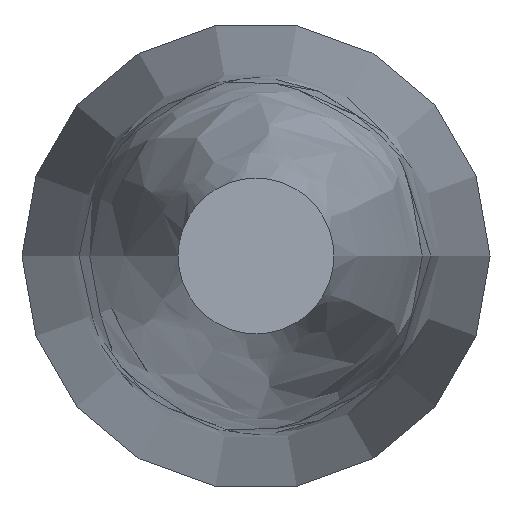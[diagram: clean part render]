
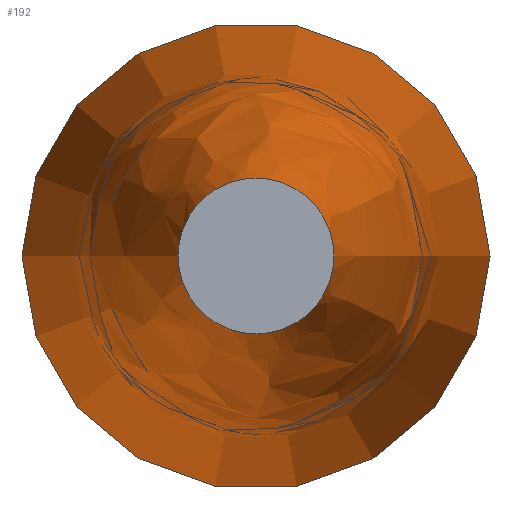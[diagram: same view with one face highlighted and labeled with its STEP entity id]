
A CAD part, left-side view. The second image highlights one B-rep face of the part: STEP entity #192.
In plain terms, the highlighted face is a revolution surface.
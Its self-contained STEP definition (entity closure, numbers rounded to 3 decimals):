
#130=CARTESIAN_POINT('',(225.0,22.9,0.0));
#131=VERTEX_POINT('',#130);
#137=CARTESIAN_POINT('',(225.0,0.0,0.0));
#138=DIRECTION('',(-1.0,0.0,0.0));
#139=DIRECTION('',(0.0,1.0,0.0));
#140=AXIS2_PLACEMENT_3D('',#137,#138,#139);
#141=CIRCLE('',#140,22.9);
#142=EDGE_CURVE('',#131,#131,#141,.T.);
#149=CARTESIAN_POINT('',(30.,8.3,0.0));
#150=CARTESIAN_POINT('',(36.19,9.998,0.0));
#151=CARTESIAN_POINT('',(66.178,15.838,0.0));
#152=CARTESIAN_POINT('',(82.836,17.727,0.0));
#153=CARTESIAN_POINT('',(100.774,19.082,0.0));
#154=CARTESIAN_POINT('',(128.175,18.454,0.0));
#155=CARTESIAN_POINT('',(147.157,21.321,0.0));
#156=CARTESIAN_POINT('',(183.307,23.523,0.0));
#157=CARTESIAN_POINT('',(193.221,25.704,0.0));
#158=CARTESIAN_POINT('',(207.403,25.195,0.0));
#159=CARTESIAN_POINT('',(225.0,22.9,0.0));
#160=B_SPLINE_CURVE_WITH_KNOTS('',4,(#149,#150,#151,#152,#153,#154,#155,#156,#157,#158,#159),.UNSPECIFIED.,.F.,.U.,(5,1,1,1,1,1,1,5),(0.0,0.251,0.348,0.446,0.552,0.659,0.756,1.0),.UNSPECIFIED.);
#161=CARTESIAN_POINT('',(30.0,0.0,0.0));
#162=DIRECTION('',(1.0,0.0,0.0));
#163=AXIS1_PLACEMENT('',#161,#162);
#164=SURFACE_OF_REVOLUTION('',#160,#163);
#165=CARTESIAN_POINT('',(30.0,8.3,0.0));
#166=VERTEX_POINT('',#165);
#167=CARTESIAN_POINT('',(225.0,22.9,0.0));
#168=CARTESIAN_POINT('',(207.403,25.195,0.0));
#169=CARTESIAN_POINT('',(193.221,25.704,0.0));
#170=CARTESIAN_POINT('',(183.307,23.523,0.0));
#171=CARTESIAN_POINT('',(147.157,21.321,0.0));
#172=CARTESIAN_POINT('',(128.175,18.454,0.0));
#173=CARTESIAN_POINT('',(100.774,19.082,0.0));
#174=CARTESIAN_POINT('',(82.836,17.727,0.0));
#175=CARTESIAN_POINT('',(66.178,15.838,0.0));
#176=CARTESIAN_POINT('',(36.19,9.998,0.0));
#177=CARTESIAN_POINT('',(30.,8.3,0.0));
#178=B_SPLINE_CURVE_WITH_KNOTS('',4,(#167,#168,#169,#170,#171,#172,#173,#174,#175,#176,#177),.UNSPECIFIED.,.F.,.U.,(5,1,1,1,1,1,1,5),(0.0,0.244,0.341,0.448,0.554,0.652,0.749,1.0),.UNSPECIFIED.);
#179=EDGE_CURVE('',#131,#166,#178,.T.);
#180=ORIENTED_EDGE('',*,*,#179,.T.);
#181=CARTESIAN_POINT('',(30.0,0.0,0.0));
#182=DIRECTION('',(-1.0,0.0,0.0));
#183=DIRECTION('',(0.0,1.0,0.0));
#184=AXIS2_PLACEMENT_3D('',#181,#182,#183);
#185=CIRCLE('',#184,8.3);
#186=EDGE_CURVE('',#166,#166,#185,.T.);
#187=ORIENTED_EDGE('',*,*,#186,.F.);
#188=ORIENTED_EDGE('',*,*,#179,.F.);
#189=ORIENTED_EDGE('',*,*,#142,.T.);
#190=EDGE_LOOP('',(#180,#187,#188,#189));
#191=FACE_OUTER_BOUND('',#190,.T.);
#192=ADVANCED_FACE('',(#191),#164,.T.);
